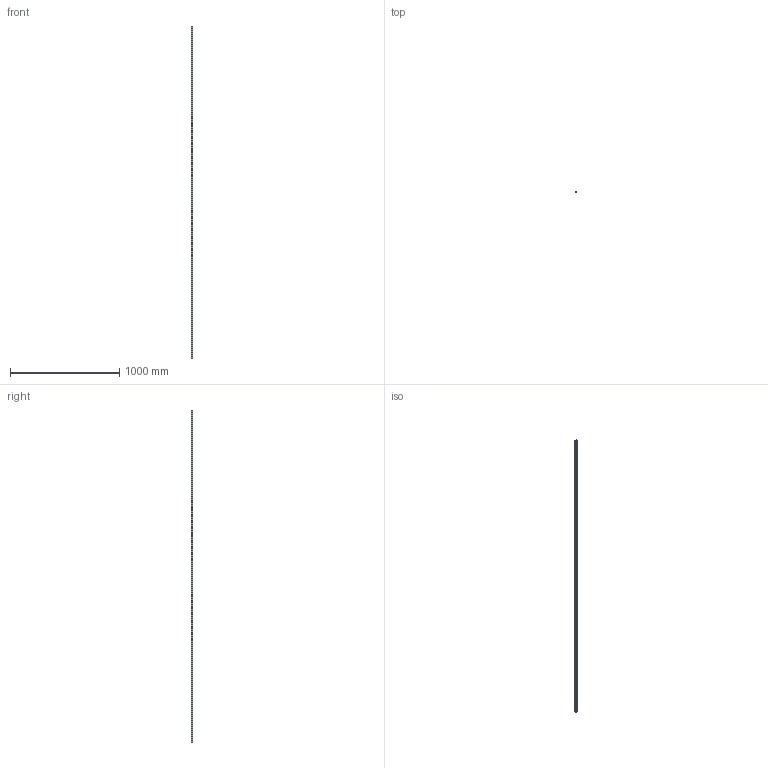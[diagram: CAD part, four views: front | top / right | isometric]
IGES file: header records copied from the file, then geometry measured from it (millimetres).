
Start section: SolidWorks IGES file using analytic representation for surfaces
Global section: file name: C:\Users\IanO\Desktop\L1016_v2\L1016.BL15_v2\L1016.BL15_v2_20190611_IGES\L1016.BL15-3040.igs; native system: SolidWorks 2017; preprocessor: SolidWorks 2017; author: IanO; date: 190612.123445; units: millimetre
Bounding box: 15 x 13 x 3040 mm (x, y, z)
Surface area: 185653.4 mm2 (no closed solid volume)
Topology: 0 solids, 0 shells, 281 faces, 7496 edges, 7496 vertices
Faces by surface type: revolution 208, bspline 73
